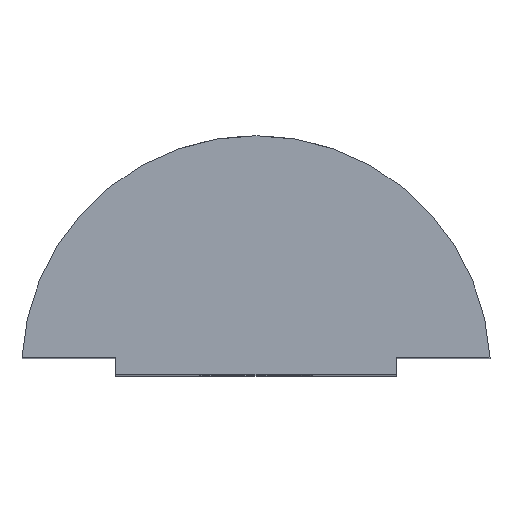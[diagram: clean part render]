
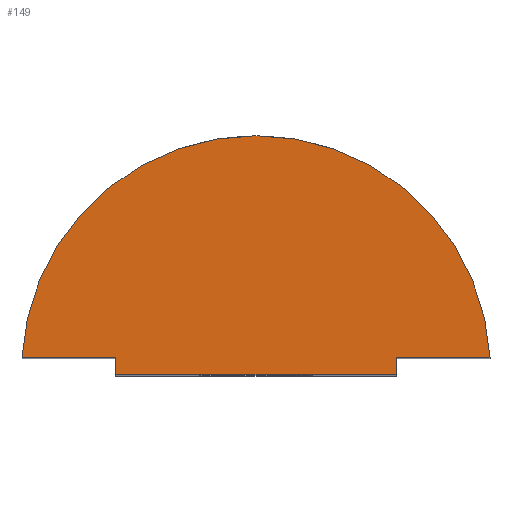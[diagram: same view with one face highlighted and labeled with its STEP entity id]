
A CAD part, top view. The second image highlights one B-rep face of the part: STEP entity #149.
In plain terms, the highlighted planar face has unit normal (0, 0, 1).
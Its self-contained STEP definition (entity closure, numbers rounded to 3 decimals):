
#4 = EDGE_CURVE ( 'NONE', #197, #313, #304, .T. ) ;
#6 = DIRECTION ( 'NONE',  ( -1., 0., 0. ) ) ;
#11 = VERTEX_POINT ( 'NONE', #414 ) ;
#12 = EDGE_CURVE ( 'NONE', #313, #11, #235, .T. ) ;
#14 = VERTEX_POINT ( 'NONE', #82 ) ;
#16 = ORIENTED_EDGE ( 'NONE', *, *, #12, .T. ) ;
#18 = VECTOR ( 'NONE', #303, 1000. ) ;
#20 = CARTESIAN_POINT ( 'NONE',  ( -4.05, 0.5, 11. ) ) ;
#39 = VECTOR ( 'NONE', #300, 1000. ) ;
#42 = VERTEX_POINT ( 'NONE', #94 ) ;
#44 = DIRECTION ( 'NONE',  ( 1., 0., 0. ) ) ;
#52 = VECTOR ( 'NONE', #421, 1000. ) ;
#79 = EDGE_CURVE ( 'NONE', #109, #197, #157, .T. ) ;
#82 = CARTESIAN_POINT ( 'NONE',  ( -4.05, 0.5, 11. ) ) ;
#88 = EDGE_CURVE ( 'NONE', #11, #42, #316, .T. ) ;
#94 = CARTESIAN_POINT ( 'NONE',  ( -6.75, 0.5, 11. ) ) ;
#100 = DIRECTION ( 'NONE',  ( 0., 0., -1. ) ) ;
#109 = VERTEX_POINT ( 'NONE', #248 ) ;
#115 = CARTESIAN_POINT ( 'NONE',  ( 4.05, 0., 11. ) ) ;
#122 = DIRECTION ( 'NONE',  ( 0., 0., 1. ) ) ;
#135 = ORIENTED_EDGE ( 'NONE', *, *, #88, .T. ) ;
#137 = PLANE ( 'NONE',  #219 ) ;
#149 = ADVANCED_FACE ( 'NONE', ( #199 ), #137, .F. ) ;
#157 = LINE ( 'NONE', #217, #52 ) ;
#164 = ORIENTED_EDGE ( 'NONE', *, *, #4, .T. ) ;
#166 = CARTESIAN_POINT ( 'NONE',  ( 0., 0.14, 11. ) ) ;
#186 = EDGE_CURVE ( 'NONE', #42, #14, #266, .T. ) ;
#197 = VERTEX_POINT ( 'NONE', #233 ) ;
#199 = FACE_OUTER_BOUND ( 'NONE', #401, .T. ) ;
#217 = CARTESIAN_POINT ( 'NONE',  ( -4.05, 0., 11. ) ) ;
#219 = AXIS2_PLACEMENT_3D ( 'NONE', #166, #100, #6 ) ;
#233 = CARTESIAN_POINT ( 'NONE',  ( 4.05, 0., 11. ) ) ;
#235 = LINE ( 'NONE', #372, #286 ) ;
#240 = VECTOR ( 'NONE', #341, 1000. ) ;
#248 = CARTESIAN_POINT ( 'NONE',  ( -4.05, 0., 11. ) ) ;
#266 = LINE ( 'NONE', #404, #39 ) ;
#267 = ORIENTED_EDGE ( 'NONE', *, *, #275, .T. ) ;
#275 = EDGE_CURVE ( 'NONE', #14, #109, #376, .T. ) ;
#286 = VECTOR ( 'NONE', #44, 1000. ) ;
#299 = ORIENTED_EDGE ( 'NONE', *, *, #186, .T. ) ;
#300 = DIRECTION ( 'NONE',  ( 1., 0., 0. ) ) ;
#302 = ORIENTED_EDGE ( 'NONE', *, *, #79, .T. ) ;
#303 = DIRECTION ( 'NONE',  ( 0., -1., 0. ) ) ;
#304 = LINE ( 'NONE', #115, #240 ) ;
#313 = VERTEX_POINT ( 'NONE', #424 ) ;
#316 = CIRCLE ( 'NONE', #381, 6.76 ) ;
#341 = DIRECTION ( 'NONE',  ( 0., 1., 0. ) ) ;
#356 = CARTESIAN_POINT ( 'NONE',  ( 0., 0.14, 11. ) ) ;
#372 = CARTESIAN_POINT ( 'NONE',  ( 4.05, 0.5, 11. ) ) ;
#376 = LINE ( 'NONE', #20, #18 ) ;
#381 = AXIS2_PLACEMENT_3D ( 'NONE', #356, #122, #384 ) ;
#384 = DIRECTION ( 'NONE',  ( -1., 0., 0. ) ) ;
#401 = EDGE_LOOP ( 'NONE', ( #135, #299, #267, #302, #164, #16 ) ) ;
#404 = CARTESIAN_POINT ( 'NONE',  ( -6.75, 0.5, 11. ) ) ;
#414 = CARTESIAN_POINT ( 'NONE',  ( 6.75, 0.5, 11. ) ) ;
#421 = DIRECTION ( 'NONE',  ( 1., 0., 0. ) ) ;
#424 = CARTESIAN_POINT ( 'NONE',  ( 4.05, 0.5, 11. ) ) ;
